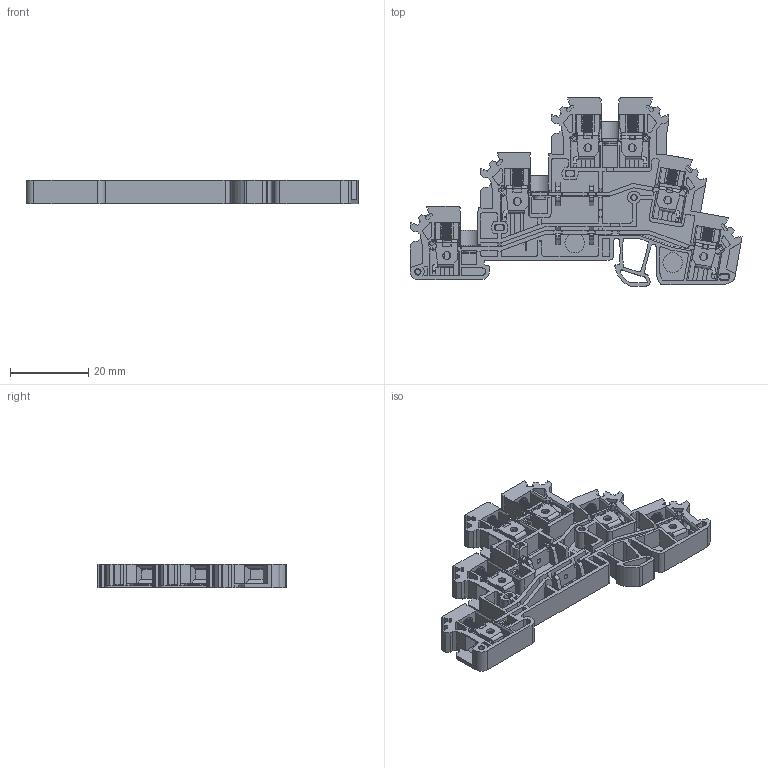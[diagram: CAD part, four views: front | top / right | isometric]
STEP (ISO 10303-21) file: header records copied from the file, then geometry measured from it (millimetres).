
FILE_DESCRIPTION(/* description */ (''),/* implementation_level */ '2;1');
FILE_NAME(/* name */ 'RBT2.5-3LA.stp',/* time_stamp */ '2017-08-14T17:07:00+08:00',/* author */ (''),/* organization */ (''),/* preprocessor_version */ 'ST-DEVELOPER v11',/* originating_system */ 'SIEMENS UGS NX 6.0',/* authorisation */ '');
FILE_SCHEMA (('CONFIG_CONTROL_DESIGN'));
Length unit declared in the file: millimetre
Products named in the file (7): RBT25-3LA; ZHONGDDP; XIADDP; SHANGDDP; XIAYK; 030942; rbt25_3la_asm_stp
Assembly tree (16 placements, depth 2):
  rbt25_3la_asm_stp
    030942  x6
    XIAYK  x6
    SHANGDDP
    XIADDP
    ZHONGDDP
    RBT25-3LA
Bounding box: 84.75 x 48 x 6 mm (x, y, z)
Volume: 6739.8 mm3; surface area: 15087.3 mm2
Topology: 16 solids, 16 shells, 2052 faces, 5835 edges, 3814 vertices
Faces by surface type: plane 1427, cylinder 496, cone 59, torus 46, bspline 24
Full cylindrical faces by diameter (mm): 2.5 x66
Entity records: 54299 total; most frequent: CARTESIAN_POINT 12347, ORIENTED_EDGE 8786, DIRECTION 8237, EDGE_CURVE 4393, LINE 3543, VECTOR 3543, VERTEX_POINT 2869, AXIS2_PLACEMENT_3D 2347
